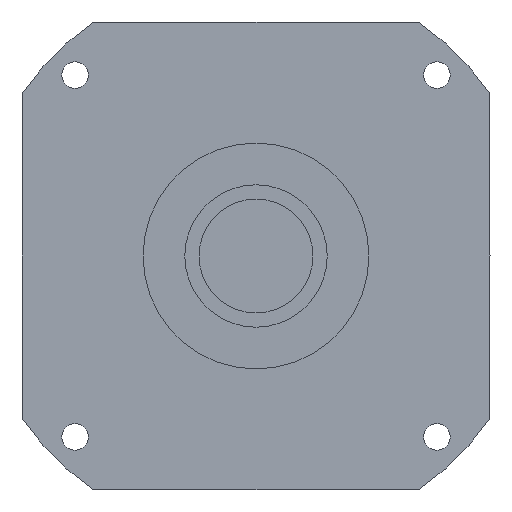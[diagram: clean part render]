
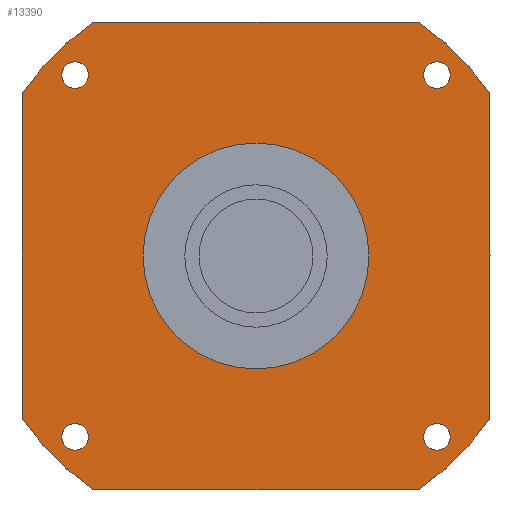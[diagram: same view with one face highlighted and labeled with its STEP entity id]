
A CAD part, left-side view. The second image highlights one B-rep face of the part: STEP entity #13390.
In plain terms, the highlighted planar face has unit normal (-1, 0, 0) as drawn and (0, 0, -1) by its records, which use the part's own axes.
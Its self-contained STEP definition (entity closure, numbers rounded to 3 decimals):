
#11720=CARTESIAN_POINT('',(-41.199,44.449,-66.4));
#11730=VERTEX_POINT('',#11720);
#11760=CARTESIAN_POINT('',(-44.449,44.449,-66.4));
#11770=DIRECTION('',(0.,0.,-1.));
#11780=DIRECTION('',(-1.,0.,0.));
#11790=AXIS2_PLACEMENT_3D('',#11760,#11770,#11780);
#11800=CIRCLE('',#11790,3.25);
#11810=CARTESIAN_POINT('',(-47.699,44.449,-66.4));
#11820=VERTEX_POINT('',#11810);
#11830=EDGE_CURVE('',#11820,#11730,#11800,.T.);
#11950=CARTESIAN_POINT('',(57.5,57.5,-66.4));
#11960=DIRECTION('',(0.,0.,-1.));
#11970=DIRECTION('',(1.,0.,0.));
#11980=AXIS2_PLACEMENT_3D('',#11950,#11960,#11970);
#11990=PLANE('',#11980);
#12000=CARTESIAN_POINT('',(-44.449,-44.449,-66.4));
#12010=DIRECTION('',(0.,0.,-1.));
#12020=DIRECTION('',(0.,-1.,0.));
#12030=AXIS2_PLACEMENT_3D('',#12000,#12010,#12020);
#12040=CIRCLE('',#12030,3.25);
#12050=CARTESIAN_POINT('',(-44.449,-47.699,-66.4));
#12060=VERTEX_POINT('',#12050);
#12070=CARTESIAN_POINT('',(-44.449,-41.199,-66.4));
#12080=VERTEX_POINT('',#12070);
#12090=EDGE_CURVE('',#12060,#12080,#12040,.T.);
#12100=ORIENTED_EDGE('',*,*,#12090,.F.);
#12110=EDGE_CURVE('',#12080,#12060,#12040,.T.);
#12120=ORIENTED_EDGE('',*,*,#12110,.F.);
#12130=EDGE_LOOP('',(#12120,#12100));
#12140=FACE_BOUND('',#12130,.T.);
#12150=ORIENTED_EDGE('',*,*,#11830,.F.);
#12160=EDGE_CURVE('',#11730,#11820,#11800,.T.);
#12170=ORIENTED_EDGE('',*,*,#12160,.F.);
#12180=EDGE_LOOP('',(#12170,#12150));
#12190=FACE_BOUND('',#12180,.T.);
#12200=CARTESIAN_POINT('',(44.449,44.449,-66.4));
#12210=DIRECTION('',(0.,0.,-1.));
#12220=DIRECTION('',(0.,1.,0.));
#12230=AXIS2_PLACEMENT_3D('',#12200,#12210,#12220);
#12240=CIRCLE('',#12230,3.25);
#12250=CARTESIAN_POINT('',(44.449,47.699,-66.4));
#12260=VERTEX_POINT('',#12250);
#12270=CARTESIAN_POINT('',(44.449,41.199,-66.4));
#12280=VERTEX_POINT('',#12270);
#12290=EDGE_CURVE('',#12260,#12280,#12240,.T.);
#12300=ORIENTED_EDGE('',*,*,#12290,.F.);
#12310=EDGE_CURVE('',#12280,#12260,#12240,.T.);
#12320=ORIENTED_EDGE('',*,*,#12310,.F.);
#12330=EDGE_LOOP('',(#12320,#12300));
#12340=FACE_BOUND('',#12330,.T.);
#12350=CARTESIAN_POINT('',(0.,0.,
-66.4));
#12360=DIRECTION('',(0.,0.,1.));
#12370=DIRECTION('',(0.,1.,0.));
#12380=AXIS2_PLACEMENT_3D('',#12350,#12360,#12370);
#12390=CIRCLE('',#12380,27.76);
#12400=CARTESIAN_POINT('',(-27.76,0.,-66.4));
#12410=VERTEX_POINT('',#12400);
#12420=CARTESIAN_POINT('',(27.76,0.,-66.4));
#12430=VERTEX_POINT('',#12420);
#12440=EDGE_CURVE('',#12410,#12430,#12390,.T.);
#12450=ORIENTED_EDGE('',*,*,#12440,.T.);
#12460=CARTESIAN_POINT('',(0.,27.76,-66.4));
#12470=VERTEX_POINT('',#12460);
#12480=EDGE_CURVE('',#12470,#12410,#12390,.T.);
#12490=ORIENTED_EDGE('',*,*,#12480,.T.);
#12500=EDGE_CURVE('',#12430,#12470,#12390,.T.);
#12510=ORIENTED_EDGE('',*,*,#12500,.T.);
#12520=EDGE_LOOP('',(#12510,#12490,#12450));
#12530=FACE_BOUND('',#12520,.T.);
#12540=CARTESIAN_POINT('',(-57.5,57.5,-66.4));
#12550=DIRECTION('',(1.,0.,0.));
#12560=VECTOR('',#12550,1000.);
#12570=LINE('',#12540,#12560);
#12580=CARTESIAN_POINT('',(-39.922,57.5,-66.4));
#12590=VERTEX_POINT('',#12580);
#12600=CARTESIAN_POINT('',(39.922,57.5,-66.4));
#12610=VERTEX_POINT('',#12600);
#12620=EDGE_CURVE('',#12590,#12610,#12570,.T.);
#12630=ORIENTED_EDGE('',*,*,#12620,.T.);
#12640=CARTESIAN_POINT('',(0.,0.,
-66.4));
#12650=DIRECTION('',(0.,0.,-1.));
#12660=DIRECTION('',(1.,0.,0.));
#12670=AXIS2_PLACEMENT_3D('',#12640,#12650,#12660);
#12680=CIRCLE('',#12670,70.);
#12690=CARTESIAN_POINT('',(-57.5,39.922,-66.4));
#12700=VERTEX_POINT('',#12690);
#12710=EDGE_CURVE('',#12700,#12590,#12680,.T.);
#12720=ORIENTED_EDGE('',*,*,#12710,.T.);
#12730=CARTESIAN_POINT('',(-57.5,-57.5,-66.4));
#12740=DIRECTION('',(0.,1.,0.));
#12750=VECTOR('',#12740,1000.);
#12760=LINE('',#12730,#12750);
#12770=CARTESIAN_POINT('',(-57.5,-39.922,-66.4));
#12780=VERTEX_POINT('',#12770);
#12790=EDGE_CURVE('',#12780,#12700,#12760,.T.);
#12800=ORIENTED_EDGE('',*,*,#12790,.T.);
#12810=CARTESIAN_POINT('',(0.,0.,
-66.4));
#12820=DIRECTION('',(0.,0.,-1.));
#12830=DIRECTION('',(1.,0.,0.));
#12840=AXIS2_PLACEMENT_3D('',#12810,#12820,#12830);
#12850=CIRCLE('',#12840,70.);
#12860=CARTESIAN_POINT('',(-39.922,-57.5,-66.4));
#12870=VERTEX_POINT('',#12860);
#12880=EDGE_CURVE('',#12870,#12780,#12850,.T.);
#12890=ORIENTED_EDGE('',*,*,#12880,.T.);
#12900=CARTESIAN_POINT('',(57.5,-57.5,-66.4));
#12910=DIRECTION('',(-1.,0.,0.));
#12920=VECTOR('',#12910,1000.);
#12930=LINE('',#12900,#12920);
#12940=CARTESIAN_POINT('',(39.922,-57.5,-66.4));
#12950=VERTEX_POINT('',#12940);
#12960=EDGE_CURVE('',#12950,#12870,#12930,.T.);
#12970=ORIENTED_EDGE('',*,*,#12960,.T.);
#12980=CARTESIAN_POINT('',(0.,0.,
-66.4));
#12990=DIRECTION('',(0.,0.,-1.));
#13000=DIRECTION('',(1.,0.,0.));
#13010=AXIS2_PLACEMENT_3D('',#12980,#12990,#13000);
#13020=CIRCLE('',#13010,70.);
#13030=CARTESIAN_POINT('',(57.5,-39.922,-66.4));
#13040=VERTEX_POINT('',#13030);
#13050=EDGE_CURVE('',#13040,#12950,#13020,.T.);
#13060=ORIENTED_EDGE('',*,*,#13050,.T.);
#13070=CARTESIAN_POINT('',(57.5,57.5,-66.4));
#13080=DIRECTION('',(0.,-1.,0.));
#13090=VECTOR('',#13080,1000.);
#13100=LINE('',#13070,#13090);
#13110=CARTESIAN_POINT('',(57.5,39.922,-66.4));
#13120=VERTEX_POINT('',#13110);
#13130=EDGE_CURVE('',#13120,#13040,#13100,.T.);
#13140=ORIENTED_EDGE('',*,*,#13130,.T.);
#13150=CARTESIAN_POINT('',(0.,0.,
-66.4));
#13160=DIRECTION('',(0.,0.,-1.));
#13170=DIRECTION('',(1.,0.,0.));
#13180=AXIS2_PLACEMENT_3D('',#13150,#13160,#13170);
#13190=CIRCLE('',#13180,70.);
#13200=EDGE_CURVE('',#12610,#13120,#13190,.T.);
#13210=ORIENTED_EDGE('',*,*,#13200,.T.);
#13220=EDGE_LOOP('',(#13210,#13140,#13060,#12970,#12890,#12800,#12720,
#12630));
#13230=FACE_OUTER_BOUND('',#13220,.T.);
#13240=CARTESIAN_POINT('',(44.449,-44.449,-66.4));
#13250=DIRECTION('',(0.,0.,-1.));
#13260=DIRECTION('',(1.,0.,0.));
#13270=AXIS2_PLACEMENT_3D('',#13240,#13250,#13260);
#13280=CIRCLE('',#13270,3.25);
#13290=CARTESIAN_POINT('',(47.699,-44.449,-66.4));
#13300=VERTEX_POINT('',#13290);
#13310=CARTESIAN_POINT('',(41.199,-44.449,-66.4));
#13320=VERTEX_POINT('',#13310);
#13330=EDGE_CURVE('',#13300,#13320,#13280,.T.);
#13340=ORIENTED_EDGE('',*,*,#13330,.F.);
#13350=EDGE_CURVE('',#13320,#13300,#13280,.T.);
#13360=ORIENTED_EDGE('',*,*,#13350,.F.);
#13370=EDGE_LOOP('',(#13360,#13340));
#13380=FACE_BOUND('',#13370,.T.);
#13390=ADVANCED_FACE('',(#12140,#12190,#12340,#12530,#13230,#13380),
#11990,.T.);
